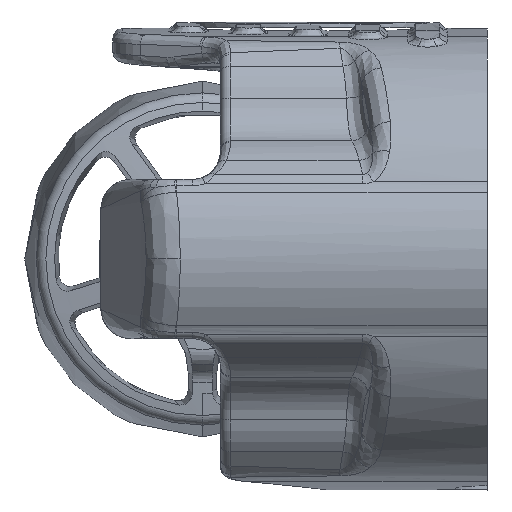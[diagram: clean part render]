
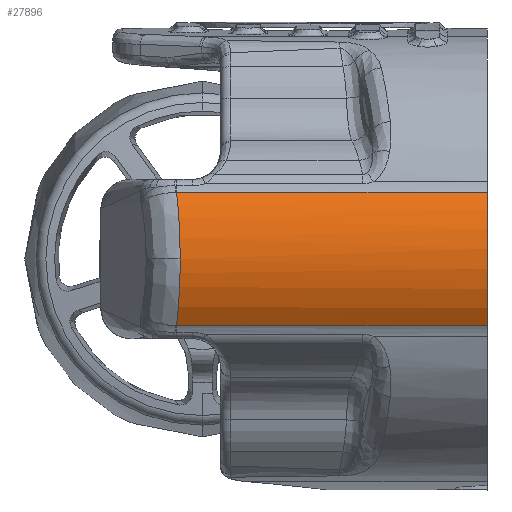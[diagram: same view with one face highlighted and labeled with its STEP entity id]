
A CAD part, left-side view. The second image highlights one B-rep face of the part: STEP entity #27896.
In plain terms, the highlighted cylindrical face has radius 31 mm (diameter 62 mm), a partial arc.
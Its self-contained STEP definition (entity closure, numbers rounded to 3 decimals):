
#1112=CARTESIAN_POINT('',(-252.,-2.,0.));
#1113=DIRECTION('',(0.,1.,0.));
#1114=DIRECTION('',(-0.841,0.,-0.542));
#1115=AXIS2_PLACEMENT_3D('',#1112,#1113,#1114);
#1909=DIRECTION('',(0.,1.,0.));
#1910=VECTOR('',#1909,78.014);
#1911=CARTESIAN_POINT('',(-278.06,-2.,-16.789));
#1912=LINE('',#1911,#1910);
#1913=CARTESIAN_POINT('',(-278.06,76.014,
-16.789));
#1914=CARTESIAN_POINT('',(-278.862,75.867,
-15.544));
#1915=CARTESIAN_POINT('',(-280.287,75.605,
-12.94));
#1916=CARTESIAN_POINT('',(-281.844,75.319,
-8.769));
#1917=CARTESIAN_POINT('',(-282.788,75.145,
-4.431));
#1918=CARTESIAN_POINT('',(-283.,75.106,
-1.477));
#1919=CARTESIAN_POINT('',(-283.,75.106,
0.));
#1921=CARTESIAN_POINT('',(-283.,75.106,
0.));
#1922=CARTESIAN_POINT('',(-283.,75.106,1.469));
#1923=CARTESIAN_POINT('',(-282.791,75.145,4.413));
#1924=CARTESIAN_POINT('',(-281.848,75.318,8.756));
#1925=CARTESIAN_POINT('',(-280.297,75.603,12.919));
#1926=CARTESIAN_POINT('',(-278.867,75.866,15.536));
#1927=CARTESIAN_POINT('',(-278.06,76.014,16.789));
#1929=DIRECTION('',(0.,1.,0.));
#1930=VECTOR('',#1929,78.014);
#1931=CARTESIAN_POINT('',(-278.06,-2.,16.789));
#1932=LINE('',#1931,#1930);
#21175=CARTESIAN_POINT('',(-278.06,76.014,
16.789));
#22865=CARTESIAN_POINT('',(-283.,75.106,
0.));
#22867=VERTEX_POINT('',#22865);
#22891=CARTESIAN_POINT('',(-278.06,-2.,-16.789));
#22892=CARTESIAN_POINT('',(-278.06,76.014,
-16.789));
#22893=VERTEX_POINT('',#22891);
#22894=VERTEX_POINT('',#22892);
#22895=CARTESIAN_POINT('',(-278.06,-2.,16.789));
#22897=VERTEX_POINT('',#22895);
#22903=VERTEX_POINT('',#21175);
#27880=CARTESIAN_POINT('',(-252.,0.,0.));
#27881=DIRECTION('',(0.,-1.,0.));
#27882=DIRECTION('',(1.,0.,0.));
#27883=AXIS2_PLACEMENT_3D('',#27880,#27881,#27882);
#27884=CYLINDRICAL_SURFACE('',#27883,31.);
#27886=ORIENTED_EDGE('',*,*,#27885,.T.);
#27888=ORIENTED_EDGE('',*,*,#27887,.T.);
#27890=ORIENTED_EDGE('',*,*,#27889,.T.);
#27892=ORIENTED_EDGE('',*,*,#27891,.F.);
#27893=ORIENTED_EDGE('',*,*,#26640,.F.);
#27894=EDGE_LOOP('',(#27886,#27888,#27890,#27892,#27893));
#27895=FACE_OUTER_BOUND('',#27894,.F.);
#27896=ADVANCED_FACE('',(#27895),#27884,.T.);
#1116=CIRCLE('',#1115,31.);
#1920=B_SPLINE_CURVE_WITH_KNOTS('',3,(#1913,#1914,#1915,#1916,#1917,#1918,
#1919),.UNSPECIFIED.,.F.,.F.,(4,1,1,1,4),(0.,0.25,0.5,0.75,1.),
.UNSPECIFIED.);
#1928=B_SPLINE_CURVE_WITH_KNOTS('',3,(#1921,#1922,#1923,#1924,#1925,#1926,
#1927),.UNSPECIFIED.,.F.,.F.,(4,1,1,1,4),(0.,0.25,0.5,0.75,1.),
.UNSPECIFIED.);
#26640=EDGE_CURVE('',#22893,#22897,#1116,.T.);
#27885=EDGE_CURVE('',#22893,#22894,#1912,.T.);
#27887=EDGE_CURVE('',#22894,#22867,#1920,.T.);
#27889=EDGE_CURVE('',#22867,#22903,#1928,.T.);
#27891=EDGE_CURVE('',#22897,#22903,#1932,.T.);
